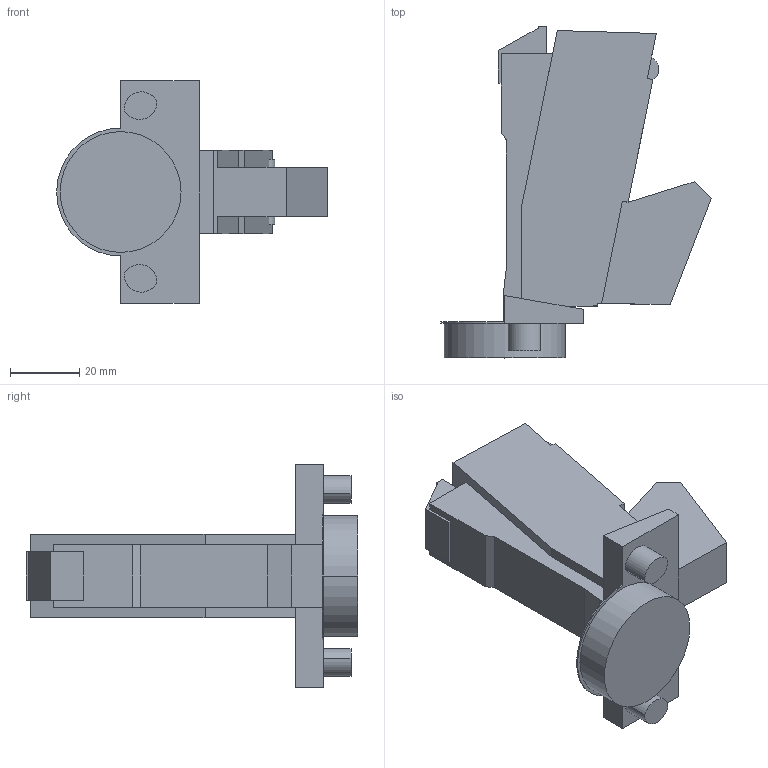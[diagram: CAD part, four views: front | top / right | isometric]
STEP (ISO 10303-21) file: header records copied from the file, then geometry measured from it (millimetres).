
FILE_DESCRIPTION (( 'STEP AP214' ), '1' );
FILE_NAME ('Scharnier TS Impresso 160° HS_BB, K03 - Neu -.step', '2019-09-17T09:16:08', ( '' ), ( '' ), 'SwSTEP 2.0', 'SolidWorks 2019', '' );
FILE_SCHEMA (( 'AUTOMOTIVE_DESIGN' ));
Length unit declared in the file: millimetre
Products named in the file (1): Scharnier TS Impresso 160° HS_BB, K03 - Neu -
Bounding box: 78.34 x 96.09 x 64.5 mm (x, y, z)
Volume: 95942.2 mm3; surface area: 19464.3 mm2
Topology: 1 solids, 1 shells, 62 faces, 167 edges, 110 vertices
Faces by surface type: plane 51, cylinder 11
Entity records: 1955 total; most frequent: CARTESIAN_POINT 340, ORIENTED_EDGE 334, DIRECTION 315, EDGE_CURVE 167, LINE 145, VECTOR 145, VERTEX_POINT 110, AXIS2_PLACEMENT_3D 85
